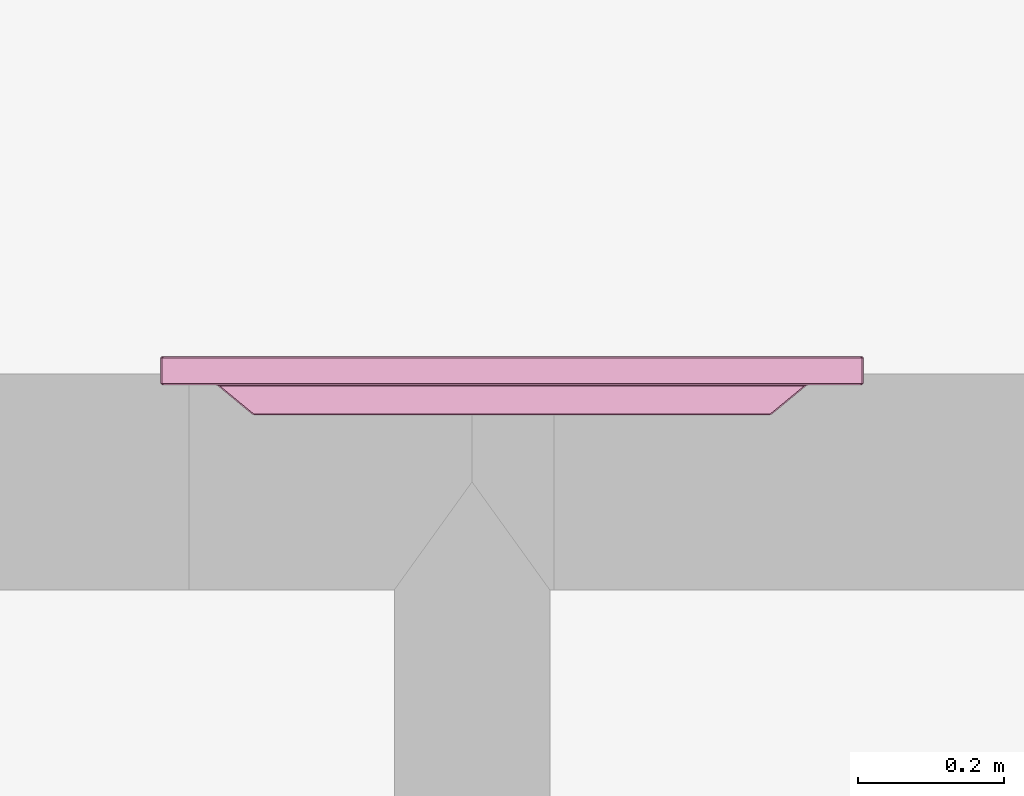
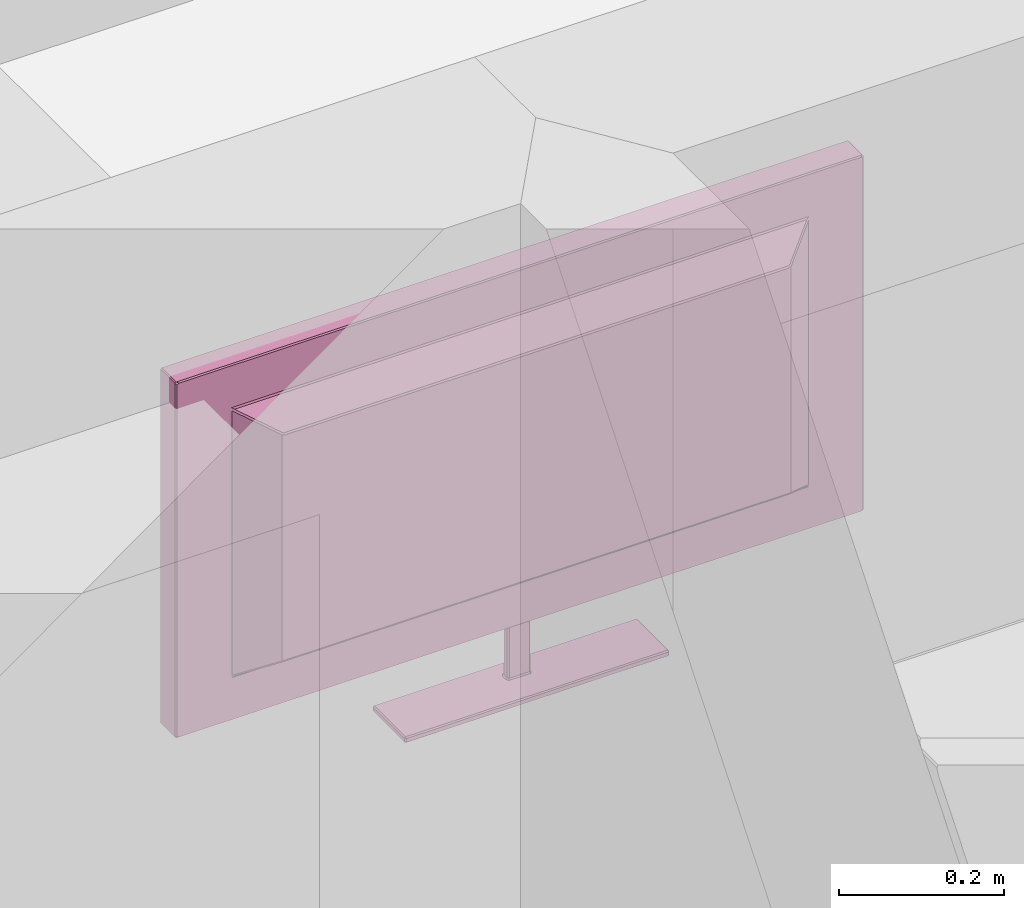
# One storey, part 4 of 8: 1 furniture element.
"""IFC4 building model written with IfcOpenShell, lengths in metres."""

from ifc_helpers import new_model, si_unit, direction, frame, origin_with_axes, place, context, project, spatial, polygons, type_object, element, save


model = new_model("IFC4")

# Units and contexts
model_context = context("Model", 3, precision=1e-05, world=origin_with_axes(), true_north=direction((-0.077, 0.997, 0.0)))
ifc_project = project(units=[si_unit("AREAUNIT", "SQUARE_METRE"), si_unit("LENGTHUNIT", "METRE")], contexts=[model_context])

# Site, building, storey, space
site_placement = place(None, origin_with_axes())
site = spatial("IfcSite", under=ifc_project, at=site_placement, Name="Site", CompositionType="ELEMENT")
building_placement = place(site_placement, origin_with_axes())
building = spatial("IfcBuilding", under=site, at=building_placement, Name="Building", CompositionType="ELEMENT")
storey_placement = place(building_placement, frame((0.0, 0.0, 0.0500000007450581), z_axis=(0.0, 0.0, 1.0), x_axis=(1.0, 0.0, 0.0)))
storey = spatial("IfcBuildingStorey", under=building, at=storey_placement, Name="Story 0", CompositionType="ELEMENT", Elevation=0.0500000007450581)
space_placement = place(storey_placement, frame((1.57275010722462, 0.239487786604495, 0.0), z_axis=(0.0, 0.0, 1.0), x_axis=(1.0, 0.0, 0.0)))
space = spatial("IfcSpace", under=storey, at=space_placement, Name="002", CompositionType="ELEMENT")

# Furniture
furniture_type = type_object("IfcFurnitureType", Name="ba3f01d5-d272-4511-8a57-f02795a70d51", AssemblyPlace="NOTDEFINED", PredefinedType="USERDEFINED")
furniture_placement = place(space_placement, frame((1.48439620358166, -1.71348490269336, 1.76135678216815), z_axis=(0.0, 0.0, 1.00000000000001), x_axis=(0.0, 0.999999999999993, 0.0)))
element("IfcFurniture", 1, at=furniture_placement, inside=space, type_object=furniture_type, Name="Television", ObjectType="Television", PredefinedType="USERDEFINED", context=model_context, shape_type="Tessellation", body=[
    polygons([(0.0288, -0.4556, -0.1808), (0.0288, 0.4556, -0.1808), (0.0288, -0.4575, -0.1791), (0.0288, -0.4575, 0.2835), (0.0288, -0.4575, -0.1791), (0.0288, -0.4556, 0.2851), (0.0288, 0.4556, 0.2851), (0.0288, -0.4556, 0.2851), (0.0288, 0.4575, 0.2835), (0.0288, -0.4556, 0.2851), (0.0288, -0.4575, -0.1791), (0.0288, 0.4575, 0.2835), (0.0288, -0.4575, -0.1791), (0.0288, 0.4556, -0.1808), (0.0288, 0.4575, 0.2835), (0.0288, 0.4556, -0.1808), (0.0288, 0.4575, -0.1791), (0.0288, 0.4575, 0.2835), (0.003, -0.4805, 0.3042), (0.003, -0.4805, -0.2181), (0.038, -0.4805, 0.3042), (0.038, -0.4805, -0.2181), (0.038, -0.4805, 0.3042), (0.003, -0.4805, -0.2181), (0.003, 0.4805, -0.2181), (0.003, 0.4805, 0.3042), (0.038, 0.4805, -0.2181), (0.038, 0.4805, 0.3042), (0.038, 0.4805, -0.2181), (0.003, 0.4805, 0.3042), (0.003, 0.4787, 0.3058), (0.003, -0.4787, 0.3058), (0.038, 0.4787, 0.3058), (0.038, -0.4787, 0.3058), (0.038, 0.4787, 0.3058), (0.003, -0.4787, 0.3058), (0.0143, -0.0166, -0.2008), (0.0062, -0.0166, -0.2008), (0.0143, -0.0166, -0.2954), (0.0062, -0.0166, -0.2954), (0.0143, -0.0166, -0.2954), (0.0062, -0.0166, -0.2008), (0.0162, 0.0131, -0.2008), (0.0162, -0.0148, -0.2008), (0.0162, 0.0131, -0.2954), (0.0162, -0.0148, -0.2954), (0.0162, 0.0131, -0.2954), (0.0162, -0.0148, -0.2008), (0.0062, 0.0149, -0.2008), (0.0143, 0.0149, -0.2008), (0.0062, 0.0149, -0.2954), (0.0143, 0.0149, -0.2954), (0.0062, 0.0149, -0.2954), (0.0143, 0.0149, -0.2008), (-0.04, 0.3522, -0.1231), (-0.04, -0.3522, -0.1231), (-0.04, 0.3522, 0.2092), (-0.04, -0.3522, 0.2092), (-0.04, 0.3522, 0.2092), (-0.04, -0.3522, -0.1231), (0.0043, 0.0131, -0.2954), (0.0043, -0.0148, -0.2954), (0.0043, 0.0131, -0.2008), (0.0043, -0.0148, -0.2008), (0.0043, 0.0131, -0.2008), (0.0043, -0.0148, -0.2954), (0.038, -0.4787, -0.2196), (0.003, -0.4787, -0.2196), (0.038, 0.4787, -0.2196), (0.003, 0.4787, -0.2196), (0.038, 0.4787, -0.2196), (0.003, -0.4787, -0.2196), (-0.0379, -0.1838, -0.3058), (-0.0379, 0.1821, -0.3058), (0.0382, -0.1838, -0.3058), (0.0382, 0.1821, -0.3058), (0.0382, -0.1838, -0.3058), (-0.0379, 0.1821, -0.3058), (0.0399, -0.4599, -0.1856), (0.0399, -0.4776, -0.2181), (0.0399, 0.4599, -0.1856), (0.0399, 0.4776, -0.2181), (0.0399, 0.4599, -0.1856), (0.0399, -0.4776, -0.2181), (0.0399, -0.4628, 0.2877), (0.0399, -0.4787, 0.3019), (0.0399, -0.4628, -0.1836), (0.0399, -0.4787, -0.2128), (0.0399, -0.4628, -0.1836), (0.0399, -0.4787, 0.3019), (0.0399, 0.4603, 0.2899), (0.0399, 0.4762, 0.3042), (0.0399, -0.4603, 0.2899), (0.0399, -0.4762, 0.3042), (0.0399, -0.4603, 0.2899), (0.0399, 0.4762, 0.3042), (0.0399, 0.4787, -0.2128), (0.0399, 0.4787, 0.3019), (0.0399, 0.4628, -0.1836), (0.0399, 0.4628, 0.2877), (0.0399, 0.4628, -0.1836), (0.0399, 0.4787, 0.3019), (0.0288, -0.4556, -0.1808), (0.0381, -0.4586, -0.1835), (0.0288, 0.4556, -0.1808), (0.0381, 0.4586, -0.1835), (0.0288, 0.4556, -0.1808), (0.0381, -0.4586, -0.1835), (0.0288, -0.4575, 0.2835), (0.0381, -0.4605, 0.2862), (0.0288, -0.4575, -0.1791), (0.0381, -0.4605, -0.1818), (0.0288, -0.4575, -0.1791), (0.0381, -0.4605, 0.2862), (0.0288, 0.4556, 0.2851), (0.0381, 0.4586, 0.2878), (0.0288, -0.4556, 0.2851), (0.0381, -0.4586, 0.2878), (0.0288, -0.4556, 0.2851), (0.0381, 0.4586, 0.2878), (0.0288, 0.4575, -0.1791), (0.0381, 0.4605, -0.1818), (0.0288, 0.4575, 0.2835), (0.0381, 0.4605, 0.2862), (0.0288, 0.4575, 0.2835), (0.0381, 0.4605, -0.1818), (0.0011, -0.4056, -0.154), (0.0011, -0.4787, -0.2159), (0.0011, -0.4056, 0.2401), (0.0011, -0.4787, 0.3021), (0.0011, -0.4056, 0.2401), (0.0011, -0.4787, -0.2159), (0.0011, 0.4031, -0.1563), (0.0011, 0.476, -0.2181), (0.0011, -0.4031, -0.1563), (0.0011, -0.476, -0.2181), (0.0011, -0.4031, -0.1563), (0.0011, 0.476, -0.2181), (0.0011, 0.4056, 0.2401), (0.0011, 0.4787, 0.3021), (0.0011, 0.4056, -0.154), (0.0011, 0.4787, -0.2159), (0.0011, 0.4056, -0.154), (0.0011, 0.4787, 0.3021), (0.0011, -0.4031, 0.2424), (0.0011, -0.476, 0.3042), (0.0011, 0.4031, 0.2424), (0.0011, 0.476, 0.3042), (0.0011, 0.4031, 0.2424), (0.0011, -0.476, 0.3042), (-0.0389, -0.3554, 0.2098), (-0.0389, -0.3554, -0.1237), (0.0, -0.4024, 0.2382), (0.0, -0.4024, -0.152), (0.0, -0.4024, 0.2382), (-0.0389, -0.3554, -0.1237), (-0.0386, -0.3532, -0.1257), (-0.0386, 0.3532, -0.1257), (-0.0003, -0.3996, -0.1537), (-0.0003, 0.3996, -0.1537), (-0.0003, -0.3996, -0.1537), (-0.0386, 0.3532, -0.1257), (-0.0389, 0.3554, -0.1237), (-0.0389, 0.3554, 0.2098), (0.0, 0.4024, -0.152), (0.0, 0.4024, 0.2382), (0.0, 0.4024, -0.152), (-0.0389, 0.3554, 0.2098), (-0.0386, 0.3532, 0.2118), (-0.0386, -0.3532, 0.2118), (-0.0003, 0.3996, 0.2398), (-0.0003, -0.3996, 0.2398), (-0.0003, 0.3996, 0.2398), (-0.0386, -0.3532, 0.2118), (0.04, 0.1821, -0.3042), (0.04, 0.1821, -0.2986), (0.04, -0.1838, -0.3042), (0.04, -0.1838, -0.2986), (0.04, -0.1838, -0.3042), (0.04, 0.1821, -0.2986), (-0.0379, 0.1839, -0.3042), (-0.0379, 0.1839, -0.2986), (0.0382, 0.1839, -0.3042), (0.0382, 0.1839, -0.2986), (0.0382, 0.1839, -0.3042), (-0.0379, 0.1839, -0.2986), (-0.0397, -0.1838, -0.3042), (-0.0397, -0.1838, -0.2986), (-0.0397, 0.1821, -0.3042), (-0.0397, 0.1821, -0.2986), (-0.0397, 0.1821, -0.3042), (-0.0397, -0.1838, -0.2986), (0.0382, -0.1855, -0.3042), (0.0382, -0.1855, -0.2986), (-0.0379, -0.1855, -0.3042), (-0.0379, -0.1855, -0.2986), (-0.0379, -0.1855, -0.3042), (0.0382, -0.1855, -0.2986), (-0.0374, -0.1838, -0.297), (0.0379, -0.1838, -0.297), (0.0058, -0.0183, -0.297), (0.0146, -0.0183, -0.297), (0.0058, -0.0183, -0.297), (0.0379, -0.1838, -0.297), (0.0025, 0.0147, -0.297), (-0.0379, 0.1696, -0.297), (0.0025, -0.0163, -0.297), (-0.0379, -0.1712, -0.297), (0.0025, -0.0163, -0.297), (-0.0379, 0.1696, -0.297), (0.0146, 0.0167, -0.297), (0.0379, 0.1821, -0.297), (0.0058, 0.0167, -0.297), (-0.0374, 0.1821, -0.297), (0.0058, 0.0167, -0.297), (0.0379, 0.1821, -0.297), (0.018, -0.0164, -0.297), (0.0382, -0.1593, -0.297), (0.018, 0.0148, -0.297), (0.0382, 0.1577, -0.297), (0.018, 0.0148, -0.297), (0.0382, -0.1593, -0.297), (0.0346, -0.4699, -0.19), (0.0346, 0.4699, -0.19), (0.0346, -0.4699, 0.2943), (0.0346, 0.4699, 0.2943), (0.0346, -0.4699, 0.2943), (0.0346, 0.4699, -0.19), (0.0399, -0.4762, 0.3042), (0.038, -0.4787, 0.3058), (0.0399, -0.4787, 0.3019), (0.038, -0.4805, 0.3042), (0.0399, -0.4787, 0.3019), (0.038, -0.4787, 0.3058), (0.0011, 0.476, 0.3042), (0.003, 0.4787, 0.3058), (0.0011, 0.4787, 0.3021), (0.003, 0.4805, 0.3042), (0.0011, 0.4787, 0.3021), (0.003, 0.4787, 0.3058), (0.0399, 0.4787, 0.3019), (0.038, 0.4805, 0.3042), (0.0399, 0.4762, 0.3042), (0.038, 0.4787, 0.3058), (0.0399, 0.4762, 0.3042), (0.038, 0.4805, 0.3042), (0.0058, -0.0183, -0.297), (0.0062, -0.0166, -0.2954), (0.0025, -0.0163, -0.297), (0.0043, -0.0148, -0.2954), (0.0025, -0.0163, -0.297), (0.0062, -0.0166, -0.2954), (0.0146, -0.0183, -0.297), (0.018, -0.0164, -0.297), (0.0143, -0.0166, -0.2954), (0.0162, -0.0148, -0.2954), (0.0143, -0.0166, -0.2954), (0.018, -0.0164, -0.297), (0.0146, 0.0167, -0.297), (0.0143, 0.0149, -0.2954), (0.018, 0.0148, -0.297), (0.0162, 0.0131, -0.2954), (0.018, 0.0148, -0.297), (0.0143, 0.0149, -0.2954), (-0.0386, -0.3532, 0.2118), (-0.04, -0.3522, 0.2092), (-0.0389, -0.3554, 0.2098), (0.0058, 0.0167, -0.297), (0.0025, 0.0147, -0.297), (0.0062, 0.0149, -0.2954), (0.0043, 0.0131, -0.2954), (0.0062, 0.0149, -0.2954), (0.0025, 0.0147, -0.297), (0.0011, -0.476, -0.2181), (0.003, -0.4787, -0.2196), (0.0011, -0.4787, -0.2159), (0.003, -0.4805, -0.2181), (0.0011, -0.4787, -0.2159), (0.003, -0.4787, -0.2196), (0.0399, -0.4787, -0.2128), (0.038, -0.4805, -0.2181), (0.0399, -0.4776, -0.2181), (0.038, -0.4787, -0.2196), (0.0399, -0.4776, -0.2181), (0.038, -0.4805, -0.2181), (0.0382, -0.1855, -0.3042), (0.0382, -0.1838, -0.3058), (0.04, -0.1838, -0.3042), (0.0399, 0.4787, -0.2128), (0.0399, 0.4776, -0.2181), (0.038, 0.4805, -0.2181), (0.038, 0.4787, -0.2196), (0.038, 0.4805, -0.2181), (0.0399, 0.4776, -0.2181), (0.0381, -0.4605, -0.1818), (0.0399, -0.4628, -0.1836), (0.0381, -0.4586, -0.1835), (0.0399, -0.4599, -0.1856), (0.0381, -0.4586, -0.1835), (0.0399, -0.4628, -0.1836), (0.0381, -0.4586, 0.2878), (0.0399, -0.4603, 0.2899), (0.0381, -0.4605, 0.2862), (0.0399, -0.4628, 0.2877), (0.0381, -0.4605, 0.2862), (0.0399, -0.4603, 0.2899), (0.0381, 0.4605, 0.2862), (0.0399, 0.4628, 0.2877), (0.0381, 0.4586, 0.2878), (0.0399, 0.4603, 0.2899), (0.0381, 0.4586, 0.2878), (0.0399, 0.4628, 0.2877), (0.0381, 0.4605, -0.1818), (0.0381, 0.4586, -0.1835), (0.0399, 0.4628, -0.1836), (0.0399, 0.4599, -0.1856), (0.0399, 0.4628, -0.1836), (0.0381, 0.4586, -0.1835), (0.0011, -0.476, 0.3042), (0.0011, -0.4787, 0.3021), (0.003, -0.4787, 0.3058), (0.003, -0.4805, 0.3042), (0.003, -0.4787, 0.3058), (0.0011, -0.4787, 0.3021), (-0.0003, -0.3996, 0.2398), (0.0, -0.4024, 0.2382), (0.0011, -0.4031, 0.2424), (0.0011, -0.4056, 0.2401), (0.0011, -0.4031, 0.2424), (0.0, -0.4024, 0.2382), (-0.0003, -0.3996, -0.1537), (0.0011, -0.4031, -0.1563), (0.0, -0.4024, -0.152), (0.0011, -0.4056, -0.154), (0.0, -0.4024, -0.152), (0.0011, -0.4031, -0.1563), (0.0011, 0.476, -0.2181), (0.0011, 0.4787, -0.2159), (0.003, 0.4787, -0.2196), (0.003, 0.4805, -0.2181), (0.003, 0.4787, -0.2196), (0.0011, 0.4787, -0.2159), (-0.0003, 0.3996, -0.1537), (0.0, 0.4024, -0.152), (0.0011, 0.4031, -0.1563), (0.0011, 0.4056, -0.154), (0.0011, 0.4031, -0.1563), (0.0, 0.4024, -0.152), (-0.0003, 0.3996, 0.2398), (0.0011, 0.4031, 0.2424), (0.0, 0.4024, 0.2382), (0.0011, 0.4056, 0.2401), (0.0, 0.4024, 0.2382), (0.0011, 0.4031, 0.2424), (-0.0386, -0.3532, -0.1257), (-0.0389, -0.3554, -0.1237), (-0.04, -0.3522, -0.1231), (-0.0389, 0.3554, -0.1237), (-0.0386, 0.3532, -0.1257), (-0.04, 0.3522, -0.1231), (-0.0386, 0.3532, 0.2118), (-0.0389, 0.3554, 0.2098), (-0.04, 0.3522, 0.2092), (0.0382, 0.1839, -0.3042), (0.04, 0.1821, -0.3042), (0.0382, 0.1821, -0.3058), (-0.0397, 0.1821, -0.3042), (-0.0379, 0.1839, -0.3042), (-0.0379, 0.1821, -0.3058), (-0.0379, -0.1855, -0.3042), (-0.0397, -0.1838, -0.3042), (-0.0379, -0.1838, -0.3058), (-0.0379, -0.1712, -0.297), (-0.0397, -0.1838, -0.2986), (-0.0374, -0.1838, -0.297), (-0.0379, -0.1855, -0.2986), (-0.0374, -0.1838, -0.297), (-0.0397, -0.1838, -0.2986), (0.0382, -0.1593, -0.297), (0.0379, -0.1838, -0.297), (0.04, -0.1838, -0.2986), (0.0382, -0.1855, -0.2986), (0.04, -0.1838, -0.2986), (0.0379, -0.1838, -0.297), (-0.0379, 0.1696, -0.297), (-0.0374, 0.1821, -0.297), (-0.0397, 0.1821, -0.2986), (-0.0379, 0.1839, -0.2986), (-0.0397, 0.1821, -0.2986), (-0.0374, 0.1821, -0.297), (0.0382, 0.1839, -0.2986), (0.0379, 0.1821, -0.297), (0.04, 0.1821, -0.2986), (0.0382, 0.1577, -0.297), (0.04, 0.1821, -0.2986), (0.0379, 0.1821, -0.297), (0.038, -0.4805, -0.2181), (0.003, -0.4805, -0.2181), (0.038, -0.4787, -0.2196), (0.003, -0.4787, -0.2196), (0.038, -0.4787, -0.2196), (0.003, -0.4805, -0.2181), (0.003, -0.4805, 0.3042), (0.038, -0.4805, 0.3042), (0.003, -0.4787, 0.3058), (0.038, -0.4787, 0.3058), (0.003, -0.4787, 0.3058), (0.038, -0.4805, 0.3042), (0.038, 0.4805, 0.3042), (0.003, 0.4805, 0.3042), (0.038, 0.4787, 0.3058), (0.003, 0.4787, 0.3058), (0.038, 0.4787, 0.3058), (0.003, 0.4805, 0.3042), (0.003, 0.4805, -0.2181), (0.038, 0.4805, -0.2181), (0.003, 0.4787, -0.2196), (0.038, 0.4787, -0.2196), (0.003, 0.4787, -0.2196), (0.038, 0.4805, -0.2181), (0.0062, -0.0166, -0.2954), (0.0062, -0.0166, -0.2008), (0.0043, -0.0148, -0.2954), (0.0043, -0.0148, -0.2008), (0.0043, -0.0148, -0.2954), (0.0062, -0.0166, -0.2008), (0.0143, -0.0166, -0.2008), (0.0143, -0.0166, -0.2954), (0.0162, -0.0148, -0.2008), (0.0162, -0.0148, -0.2954), (0.0162, -0.0148, -0.2008), (0.0143, -0.0166, -0.2954), (0.0162, 0.0131, -0.2008), (0.0162, 0.0131, -0.2954), (0.0143, 0.0149, -0.2008), (0.0143, 0.0149, -0.2954), (0.0143, 0.0149, -0.2008), (0.0162, 0.0131, -0.2954), (0.0062, 0.0149, -0.2008), (0.0062, 0.0149, -0.2954), (0.0043, 0.0131, -0.2008), (0.0043, 0.0131, -0.2954), (0.0043, 0.0131, -0.2008), (0.0062, 0.0149, -0.2954), (-0.04, -0.3522, 0.2092), (-0.04, -0.3522, -0.1231), (-0.0389, -0.3554, 0.2098), (-0.0389, -0.3554, -0.1237), (-0.0389, -0.3554, 0.2098), (-0.04, -0.3522, -0.1231), (-0.04, -0.3522, -0.1231), (-0.04, 0.3522, -0.1231), (-0.0386, -0.3532, -0.1257), (-0.0386, 0.3532, -0.1257), (-0.0386, -0.3532, -0.1257), (-0.04, 0.3522, -0.1231), (-0.04, 0.3522, -0.1231), (-0.04, 0.3522, 0.2092), (-0.0389, 0.3554, -0.1237), (-0.0389, 0.3554, 0.2098), (-0.0389, 0.3554, -0.1237), (-0.04, 0.3522, 0.2092), (-0.04, 0.3522, 0.2092), (-0.04, -0.3522, 0.2092), (-0.0386, 0.3532, 0.2118), (-0.0386, -0.3532, 0.2118), (-0.0386, 0.3532, 0.2118), (-0.04, -0.3522, 0.2092), (0.0382, 0.1821, -0.3058), (-0.0379, 0.1821, -0.3058), (0.0382, 0.1839, -0.3042), (-0.0379, 0.1839, -0.3042), (0.0382, 0.1839, -0.3042), (-0.0379, 0.1821, -0.3058), (-0.0379, 0.1821, -0.3058), (-0.0379, -0.1838, -0.3058), (-0.0397, 0.1821, -0.3042), (-0.0397, -0.1838, -0.3042), (-0.0397, 0.1821, -0.3042), (-0.0379, -0.1838, -0.3058), (-0.0379, -0.1838, -0.3058), (0.0382, -0.1838, -0.3058), (-0.0379, -0.1855, -0.3042), (0.0382, -0.1855, -0.3042), (-0.0379, -0.1855, -0.3042), (0.0382, -0.1838, -0.3058), (0.0382, -0.1838, -0.3058), (0.0382, 0.1821, -0.3058), (0.04, -0.1838, -0.3042), (0.04, 0.1821, -0.3042), (0.04, -0.1838, -0.3042), (0.0382, 0.1821, -0.3058), (0.0399, 0.4776, -0.2181), (0.0399, -0.4776, -0.2181), (0.038, 0.4787, -0.2196), (0.038, -0.4787, -0.2196), (0.038, 0.4787, -0.2196), (0.0399, -0.4776, -0.2181), (0.0399, -0.4776, -0.2181), (0.0399, -0.4599, -0.1856), (0.0399, -0.4787, -0.2128), (0.0399, -0.4628, -0.1836), (0.0399, -0.4787, -0.2128), (0.0399, -0.4599, -0.1856), (0.0399, -0.4787, -0.2128), (0.0399, -0.4787, 0.3019), (0.038, -0.4805, -0.2181), (0.038, -0.4805, 0.3042), (0.038, -0.4805, -0.2181), (0.0399, -0.4787, 0.3019), (0.0399, -0.4787, 0.3019), (0.0399, -0.4628, 0.2877), (0.0399, -0.4762, 0.3042), (0.0399, -0.4603, 0.2899), (0.0399, -0.4762, 0.3042), (0.0399, -0.4628, 0.2877), (0.0399, -0.4762, 0.3042), (0.0399, 0.4762, 0.3042), (0.038, -0.4787, 0.3058), (0.038, 0.4787, 0.3058), (0.038, -0.4787, 0.3058), (0.0399, 0.4762, 0.3042), (0.0399, 0.4762, 0.3042), (0.0399, 0.4603, 0.2899), (0.0399, 0.4787, 0.3019), (0.0399, 0.4628, 0.2877), (0.0399, 0.4787, 0.3019), (0.0399, 0.4603, 0.2899), (0.0399, 0.4787, 0.3019), (0.0399, 0.4787, -0.2128), (0.038, 0.4805, 0.3042), (0.038, 0.4805, -0.2181), (0.038, 0.4805, 0.3042), (0.0399, 0.4787, -0.2128), (0.0399, 0.4787, -0.2128), (0.0399, 0.4628, -0.1836), (0.0399, 0.4776, -0.2181), (0.0399, 0.4599, -0.1856), (0.0399, 0.4776, -0.2181), (0.0399, 0.4628, -0.1836), (0.0381, 0.4586, -0.1835), (0.0381, -0.4586, -0.1835), (0.0399, 0.4599, -0.1856), (0.0399, -0.4599, -0.1856), (0.0399, 0.4599, -0.1856), (0.0381, -0.4586, -0.1835), (0.0381, -0.4586, -0.1835), (0.0288, -0.4556, -0.1808), (0.0381, -0.4605, -0.1818), (0.0288, -0.4575, -0.1791), (0.0381, -0.4605, -0.1818), (0.0288, -0.4556, -0.1808), (0.0381, -0.4605, -0.1818), (0.0381, -0.4605, 0.2862), (0.0399, -0.4628, -0.1836), (0.0399, -0.4628, 0.2877), (0.0399, -0.4628, -0.1836), (0.0381, -0.4605, 0.2862), (0.0381, -0.4605, 0.2862), (0.0288, -0.4575, 0.2835), (0.0381, -0.4586, 0.2878), (0.0288, -0.4556, 0.2851), (0.0381, -0.4586, 0.2878), (0.0288, -0.4575, 0.2835), (0.0381, -0.4586, 0.2878), (0.0381, 0.4586, 0.2878), (0.0399, -0.4603, 0.2899), (0.0399, 0.4603, 0.2899), (0.0399, -0.4603, 0.2899), (0.0381, 0.4586, 0.2878), (0.0381, 0.4586, 0.2878), (0.0288, 0.4556, 0.2851), (0.0381, 0.4605, 0.2862), (0.0288, 0.4575, 0.2835), (0.0381, 0.4605, 0.2862), (0.0288, 0.4556, 0.2851), (0.0381, 0.4605, 0.2862), (0.0381, 0.4605, -0.1818), (0.0399, 0.4628, 0.2877), (0.0399, 0.4628, -0.1836), (0.0399, 0.4628, 0.2877), (0.0381, 0.4605, -0.1818), (0.0381, 0.4605, -0.1818), (0.0288, 0.4575, -0.1791), (0.0381, 0.4586, -0.1835), (0.0288, 0.4556, -0.1808), (0.0381, 0.4586, -0.1835), (0.0288, 0.4575, -0.1791), (0.0011, -0.4787, 0.3021), (0.0011, -0.4787, -0.2159), (0.003, -0.4805, 0.3042), (0.003, -0.4805, -0.2181), (0.003, -0.4805, 0.3042), (0.0011, -0.4787, -0.2159), (0.0011, -0.4787, -0.2159), (0.0011, -0.4056, -0.154), (0.0011, -0.476, -0.2181), (0.0011, -0.4031, -0.1563), (0.0011, -0.476, -0.2181), (0.0011, -0.4056, -0.154), (0.0011, -0.4056, -0.154), (0.0011, -0.4056, 0.2401), (0.0, -0.4024, -0.152), (0.0, -0.4024, 0.2382), (0.0, -0.4024, -0.152), (0.0011, -0.4056, 0.2401), (0.0011, -0.476, -0.2181), (0.0011, 0.476, -0.2181), (0.003, -0.4787, -0.2196), (0.003, 0.4787, -0.2196), (0.003, -0.4787, -0.2196), (0.0011, 0.476, -0.2181), (0.0011, 0.476, -0.2181), (0.0011, 0.4031, -0.1563), (0.0011, 0.4787, -0.2159), (0.0011, 0.4056, -0.154), (0.0011, 0.4787, -0.2159), (0.0011, 0.4031, -0.1563), (0.0011, 0.4031, -0.1563), (0.0011, -0.4031, -0.1563), (-0.0003, 0.3996, -0.1537), (-0.0003, -0.3996, -0.1537), (-0.0003, 0.3996, -0.1537), (0.0011, -0.4031, -0.1563), (0.0011, 0.4787, -0.2159), (0.0011, 0.4787, 0.3021), (0.003, 0.4805, -0.2181), (0.003, 0.4805, 0.3042), (0.003, 0.4805, -0.2181), (0.0011, 0.4787, 0.3021), (0.0011, 0.4787, 0.3021), (0.0011, 0.4056, 0.2401), (0.0011, 0.476, 0.3042), (0.0011, 0.4031, 0.2424), (0.0011, 0.476, 0.3042), (0.0011, 0.4056, 0.2401), (0.0011, 0.4056, 0.2401), (0.0011, 0.4056, -0.154), (0.0, 0.4024, 0.2382), (0.0, 0.4024, -0.152), (0.0, 0.4024, 0.2382), (0.0011, 0.4056, -0.154), (0.0011, 0.476, 0.3042), (0.0011, -0.476, 0.3042), (0.003, 0.4787, 0.3058), (0.003, -0.4787, 0.3058), (0.003, 0.4787, 0.3058), (0.0011, -0.476, 0.3042), (0.0011, -0.476, 0.3042), (0.0011, -0.4031, 0.2424), (0.0011, -0.4787, 0.3021), (0.0011, -0.4056, 0.2401), (0.0011, -0.4787, 0.3021), (0.0011, -0.4031, 0.2424), (0.0011, -0.4031, 0.2424), (0.0011, 0.4031, 0.2424), (-0.0003, -0.3996, 0.2398), (-0.0003, 0.3996, 0.2398), (-0.0003, -0.3996, 0.2398), (0.0011, 0.4031, 0.2424), (0.0, -0.4024, -0.152), (-0.0389, -0.3554, -0.1237), (-0.0003, -0.3996, -0.1537), (-0.0386, -0.3532, -0.1257), (-0.0003, -0.3996, -0.1537), (-0.0389, -0.3554, -0.1237), (-0.0003, 0.3996, -0.1537), (-0.0386, 0.3532, -0.1257), (0.0, 0.4024, -0.152), (-0.0389, 0.3554, -0.1237), (0.0, 0.4024, -0.152), (-0.0386, 0.3532, -0.1257), (0.0, 0.4024, 0.2382), (-0.0389, 0.3554, 0.2098), (-0.0003, 0.3996, 0.2398), (-0.0386, 0.3532, 0.2118), (-0.0003, 0.3996, 0.2398), (-0.0389, 0.3554, 0.2098), (-0.0003, -0.3996, 0.2398), (-0.0386, -0.3532, 0.2118), (0.0, -0.4024, 0.2382), (-0.0389, -0.3554, 0.2098), (0.0, -0.4024, 0.2382), (-0.0386, -0.3532, 0.2118), (0.04, 0.1821, -0.2986), (0.04, 0.1821, -0.3042), (0.0382, 0.1839, -0.2986), (0.0382, 0.1839, -0.3042), (0.0382, 0.1839, -0.2986), (0.04, 0.1821, -0.3042), (-0.0379, 0.1839, -0.2986), (-0.0379, 0.1839, -0.3042), (-0.0397, 0.1821, -0.2986), (-0.0397, 0.1821, -0.3042), (-0.0397, 0.1821, -0.2986), (-0.0379, 0.1839, -0.3042), (-0.0397, -0.1838, -0.2986), (-0.0397, -0.1838, -0.3042), (-0.0379, -0.1855, -0.2986), (-0.0379, -0.1855, -0.3042), (-0.0379, -0.1855, -0.2986), (-0.0397, -0.1838, -0.3042), (0.0382, -0.1855, -0.2986), (0.0382, -0.1855, -0.3042), (0.04, -0.1838, -0.2986), (0.04, -0.1838, -0.3042), (0.04, -0.1838, -0.2986), (0.0382, -0.1855, -0.3042), (0.0379, -0.1838, -0.297), (-0.0374, -0.1838, -0.297), (0.0382, -0.1855, -0.2986), (-0.0379, -0.1855, -0.2986), (0.0382, -0.1855, -0.2986), (-0.0374, -0.1838, -0.297), (-0.0374, -0.1838, -0.297), (0.0058, -0.0183, -0.297), (-0.0379, -0.1712, -0.297), (0.0025, -0.0163, -0.297), (-0.0379, -0.1712, -0.297), (0.0058, -0.0183, -0.297), (0.0058, -0.0183, -0.297), (0.0146, -0.0183, -0.297), (0.0062, -0.0166, -0.2954), (0.0143, -0.0166, -0.2954), (0.0062, -0.0166, -0.2954), (0.0146, -0.0183, -0.297), (-0.0379, -0.1712, -0.297), (-0.0379, 0.1696, -0.297), (-0.0397, -0.1838, -0.2986), (-0.0397, 0.1821, -0.2986), (-0.0397, -0.1838, -0.2986), (-0.0379, 0.1696, -0.297), (-0.0379, 0.1696, -0.297), (0.0025, 0.0147, -0.297), (-0.0374, 0.1821, -0.297), (0.0058, 0.0167, -0.297), (-0.0374, 0.1821, -0.297), (0.0025, 0.0147, -0.297), (0.0025, 0.0147, -0.297), (0.0025, -0.0163, -0.297), (0.0043, 0.0131, -0.2954), (0.0043, -0.0148, -0.2954), (0.0043, 0.0131, -0.2954), (0.0025, -0.0163, -0.297), (-0.0374, 0.1821, -0.297), (0.0379, 0.1821, -0.297), (-0.0379, 0.1839, -0.2986), (0.0382, 0.1839, -0.2986), (-0.0379, 0.1839, -0.2986), (0.0379, 0.1821, -0.297), (0.0379, 0.1821, -0.297), (0.0146, 0.0167, -0.297), (0.0382, 0.1577, -0.297), (0.018, 0.0148, -0.297), (0.0382, 0.1577, -0.297), (0.0146, 0.0167, -0.297), (0.0146, 0.0167, -0.297), (0.0058, 0.0167, -0.297), (0.0143, 0.0149, -0.2954), (0.0062, 0.0149, -0.2954), (0.0143, 0.0149, -0.2954), (0.0058, 0.0167, -0.297), (0.0382, 0.1577, -0.297), (0.0382, -0.1593, -0.297), (0.04, 0.1821, -0.2986), (0.04, -0.1838, -0.2986), (0.04, 0.1821, -0.2986), (0.0382, -0.1593, -0.297), (0.0382, -0.1593, -0.297), (0.018, -0.0164, -0.297), (0.0379, -0.1838, -0.297), (0.0146, -0.0183, -0.297), (0.0379, -0.1838, -0.297), (0.018, -0.0164, -0.297), (0.018, -0.0164, -0.297), (0.018, 0.0148, -0.297), (0.0162, -0.0148, -0.2954), (0.0162, 0.0131, -0.2954), (0.0162, -0.0148, -0.2954), (0.018, 0.0148, -0.297)], [[[1, 2, 3]], [[4, 5, 6]], [[7, 8, 9]], [[10, 11, 12]], [[13, 14, 15]], [[16, 17, 18]], [[19, 20, 21]], [[22, 23, 24]], [[25, 26, 27]], [[28, 29, 30]], [[31, 32, 33]], [[34, 35, 36]], [[37, 38, 39]], [[40, 41, 42]], [[43, 44, 45]], [[46, 47, 48]], [[49, 50, 51]], [[52, 53, 54]], [[55, 56, 57]], [[58, 59, 60]], [[61, 62, 63]], [[64, 65, 66]], [[67, 68, 69]], [[70, 71, 72]], [[73, 74, 75]], [[76, 77, 78]], [[79, 80, 81]], [[82, 83, 84]], [[85, 86, 87]], [[88, 89, 90]], [[91, 92, 93]], [[94, 95, 96]], [[97, 98, 99]], [[100, 101, 102]], [[103, 104, 105]], [[106, 107, 108]], [[109, 110, 111]], [[112, 113, 114]], [[115, 116, 117]], [[118, 119, 120]], [[121, 122, 123]], [[124, 125, 126]], [[127, 128, 129]], [[130, 131, 132]], [[133, 134, 135]], [[136, 137, 138]], [[139, 140, 141]], [[142, 143, 144]], [[145, 146, 147]], [[148, 149, 150]], [[151, 152, 153]], [[154, 155, 156]], [[157, 158, 159]], [[160, 161, 162]], [[163, 164, 165]], [[166, 167, 168]], [[169, 170, 171]], [[172, 173, 174]], [[175, 176, 177]], [[178, 179, 180]], [[181, 182, 183]], [[184, 185, 186]], [[187, 188, 189]], [[190, 191, 192]], [[193, 194, 195]], [[196, 197, 198]], [[199, 200, 201]], [[202, 203, 204]], [[205, 206, 207]], [[208, 209, 210]], [[211, 212, 213]], [[214, 215, 216]], [[217, 218, 219]], [[220, 221, 222]], [[223, 224, 225]], [[226, 227, 228]], [[229, 230, 231]], [[232, 233, 234]], [[235, 236, 237]], [[238, 239, 240]], [[241, 242, 243]], [[244, 245, 246]], [[247, 248, 249]], [[250, 251, 252]], [[253, 254, 255]], [[256, 257, 258]], [[259, 260, 261]], [[262, 263, 264]], [[265, 266, 267]], [[268, 269, 270]], [[271, 272, 273]], [[274, 275, 276]], [[277, 278, 279]], [[280, 281, 282]], [[283, 284, 285]], [[286, 287, 288]], [[289, 290, 291]], [[292, 293, 294]], [[295, 296, 297]], [[298, 299, 300]], [[301, 302, 303]], [[304, 305, 306]], [[307, 308, 309]], [[310, 311, 312]], [[313, 314, 315]], [[316, 317, 318]], [[319, 320, 321]], [[322, 323, 324]], [[325, 326, 327]], [[328, 329, 330]], [[331, 332, 333]], [[334, 335, 336]], [[337, 338, 339]], [[340, 341, 342]], [[343, 344, 345]], [[346, 347, 348]], [[349, 350, 351]], [[352, 353, 354]], [[355, 356, 357]], [[358, 359, 360]], [[361, 362, 363]], [[364, 365, 366]], [[367, 368, 369]], [[370, 371, 372]], [[373, 374, 375]], [[376, 377, 378]], [[379, 380, 381]], [[382, 383, 384]], [[385, 386, 387]], [[388, 389, 390]], [[391, 392, 393]], [[394, 395, 396]], [[397, 398, 399]], [[400, 401, 402]], [[403, 404, 405]], [[406, 407, 408]], [[409, 410, 411]], [[412, 413, 414]], [[415, 416, 417]], [[418, 419, 420]], [[421, 422, 423]], [[424, 425, 426]], [[427, 428, 429]], [[430, 431, 432]], [[433, 434, 435]], [[436, 437, 438]], [[439, 440, 441]], [[442, 443, 444]], [[445, 446, 447]], [[448, 449, 450]], [[451, 452, 453]], [[454, 455, 456]], [[457, 458, 459]], [[460, 461, 462]], [[463, 464, 465]], [[466, 467, 468]], [[469, 470, 471]], [[472, 473, 474]], [[475, 476, 477]], [[478, 479, 480]], [[481, 482, 483]], [[484, 485, 486]], [[487, 488, 489]], [[490, 491, 492]], [[493, 494, 495]], [[496, 497, 498]], [[499, 500, 501]], [[502, 503, 504]], [[505, 506, 507]], [[508, 509, 510]], [[511, 512, 513]], [[514, 515, 516]], [[517, 518, 519]], [[520, 521, 522]], [[523, 524, 525]], [[526, 527, 528]], [[529, 530, 531]], [[532, 533, 534]], [[535, 536, 537]], [[538, 539, 540]], [[541, 542, 543]], [[544, 545, 546]], [[547, 548, 549]], [[550, 551, 552]], [[553, 554, 555]], [[556, 557, 558]], [[559, 560, 561]], [[562, 563, 564]], [[565, 566, 567]], [[568, 569, 570]], [[571, 572, 573]], [[574, 575, 576]], [[577, 578, 579]], [[580, 581, 582]], [[583, 584, 585]], [[586, 587, 588]], [[589, 590, 591]], [[592, 593, 594]], [[595, 596, 597]], [[598, 599, 600]], [[601, 602, 603]], [[604, 605, 606]], [[607, 608, 609]], [[610, 611, 612]], [[613, 614, 615]], [[616, 617, 618]], [[619, 620, 621]], [[622, 623, 624]], [[625, 626, 627]], [[628, 629, 630]], [[631, 632, 633]], [[634, 635, 636]], [[637, 638, 639]], [[640, 641, 642]], [[643, 644, 645]], [[646, 647, 648]], [[649, 650, 651]], [[652, 653, 654]], [[655, 656, 657]], [[658, 659, 660]], [[661, 662, 663]], [[664, 665, 666]], [[667, 668, 669]], [[670, 671, 672]], [[673, 674, 675]], [[676, 677, 678]], [[679, 680, 681]], [[682, 683, 684]], [[685, 686, 687]], [[688, 689, 690]], [[691, 692, 693]], [[694, 695, 696]], [[697, 698, 699]], [[700, 701, 702]], [[703, 704, 705]], [[706, 707, 708]], [[709, 710, 711]], [[712, 713, 714]], [[715, 716, 717]], [[718, 719, 720]], [[721, 722, 723]], [[724, 725, 726]], [[727, 728, 729]], [[730, 731, 732]], [[733, 734, 735]], [[736, 737, 738]], [[739, 740, 741]], [[742, 743, 744]], [[745, 746, 747]], [[748, 749, 750]], [[751, 752, 753]], [[754, 755, 756]], [[757, 758, 759]], [[760, 761, 762]], [[763, 764, 765]], [[766, 767, 768]], [[769, 770, 771]], [[772, 773, 774]], [[775, 776, 777]], [[778, 779, 780]]]),
])

save(model, "model.ifc")
